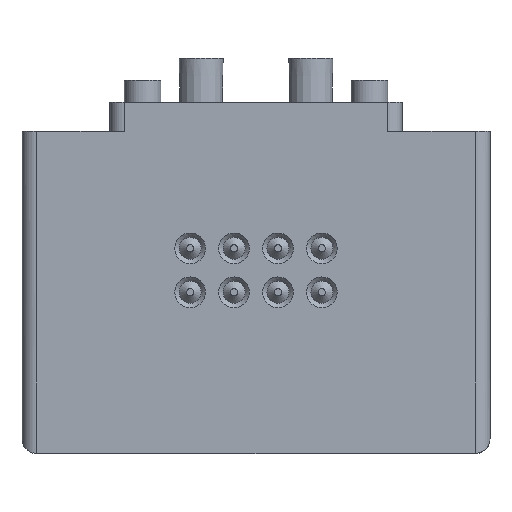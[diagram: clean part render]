
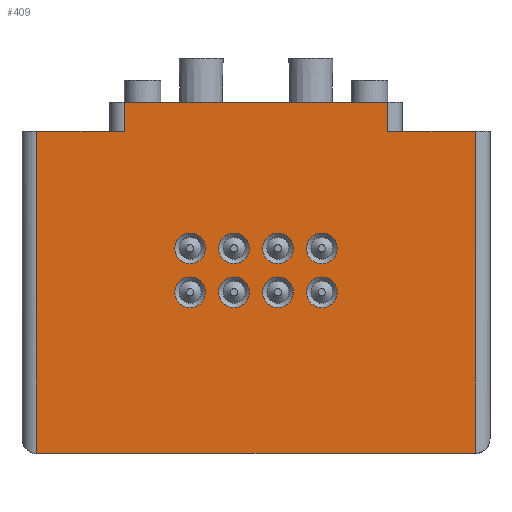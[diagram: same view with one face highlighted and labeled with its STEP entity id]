
A CAD part, top view. The second image highlights one B-rep face of the part: STEP entity #409.
In plain terms, the highlighted planar face has unit normal (0, 0, 1).
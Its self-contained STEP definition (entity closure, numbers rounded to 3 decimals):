
#409=ADVANCED_FACE('',(#1052,#1053,#1054,#1055,#1056,#1057,#1058,#1059,#1060),#1061,.T.);
#1052=FACE_BOUND('',#2017,.T.);
#1053=FACE_BOUND('',#2018,.T.);
#1054=FACE_BOUND('',#2019,.T.);
#1055=FACE_BOUND('',#2020,.T.);
#1056=FACE_BOUND('',#2021,.T.);
#1057=FACE_BOUND('',#2022,.T.);
#1058=FACE_BOUND('',#2023,.T.);
#1059=FACE_BOUND('',#2024,.T.);
#1060=FACE_OUTER_BOUND('',#2025,.T.);
#1061=PLANE('',#2026);
#2017=EDGE_LOOP('',(#3254));
#2018=EDGE_LOOP('',(#3255));
#2019=EDGE_LOOP('',(#3256));
#2020=EDGE_LOOP('',(#3257));
#2021=EDGE_LOOP('',(#3258));
#2022=EDGE_LOOP('',(#3259));
#2023=EDGE_LOOP('',(#3260));
#2024=EDGE_LOOP('',(#3261));
#2025=EDGE_LOOP('',(#3262,#3263,#3264,#3265,#3266,#3267,#3268,#3269));
#2026=AXIS2_PLACEMENT_3D('',#3270,#3271,#3272);
#3254=ORIENTED_EDGE('',*,*,#5368,.T.);
#3255=ORIENTED_EDGE('',*,*,#5369,.T.);
#3256=ORIENTED_EDGE('',*,*,#5370,.T.);
#3257=ORIENTED_EDGE('',*,*,#5371,.T.);
#3258=ORIENTED_EDGE('',*,*,#5372,.T.);
#3259=ORIENTED_EDGE('',*,*,#5373,.T.);
#3260=ORIENTED_EDGE('',*,*,#5374,.T.);
#3261=ORIENTED_EDGE('',*,*,#5375,.T.);
#3262=ORIENTED_EDGE('',*,*,#5343,.T.);
#3263=ORIENTED_EDGE('',*,*,#5219,.T.);
#3264=ORIENTED_EDGE('',*,*,#5376,.T.);
#3265=ORIENTED_EDGE('',*,*,#5377,.T.);
#3266=ORIENTED_EDGE('',*,*,#5378,.T.);
#3267=ORIENTED_EDGE('',*,*,#5379,.T.);
#3268=ORIENTED_EDGE('',*,*,#5380,.T.);
#3269=ORIENTED_EDGE('',*,*,#5268,.T.);
#3270=CARTESIAN_POINT('',(-16.0,-24.0,5.8));
#3271=DIRECTION('',(0.0,0.0,1.0));
#3272=DIRECTION('',(1.0,0.0,0.0));
#5219=EDGE_CURVE('',#6150,#6148,#6151,.T.);
#5268=EDGE_CURVE('',#6229,#6230,#6231,.T.);
#5343=EDGE_CURVE('',#6230,#6150,#6346,.T.);
#5368=EDGE_CURVE('',#6380,#6380,#6381,.T.);
#5369=EDGE_CURVE('',#6382,#6382,#6383,.T.);
#5370=EDGE_CURVE('',#6384,#6384,#6385,.T.);
#5371=EDGE_CURVE('',#6386,#6386,#6387,.T.);
#5372=EDGE_CURVE('',#6388,#6388,#6389,.T.);
#5373=EDGE_CURVE('',#6390,#6390,#6391,.T.);
#5374=EDGE_CURVE('',#6392,#6392,#6393,.T.);
#5375=EDGE_CURVE('',#6394,#6394,#6395,.T.);
#5376=EDGE_CURVE('',#6148,#6396,#6397,.T.);
#5377=EDGE_CURVE('',#6396,#6398,#6399,.T.);
#5378=EDGE_CURVE('',#6398,#6400,#6401,.T.);
#5379=EDGE_CURVE('',#6400,#6402,#6403,.T.);
#5380=EDGE_CURVE('',#6402,#6229,#6404,.T.);
#6148=VERTEX_POINT('',#7493);
#6150=VERTEX_POINT('',#7495);
#6151=LINE('',#7496,#7497);
#6229=VERTEX_POINT('',#7607);
#6230=VERTEX_POINT('',#7608);
#6231=LINE('',#7609,#7610);
#6346=LINE('',#7769,#7770);
#6380=VERTEX_POINT('',#7812);
#6381=CIRCLE('',#7813,1.05);
#6382=VERTEX_POINT('',#7814);
#6383=CIRCLE('',#7815,1.05);
#6384=VERTEX_POINT('',#7816);
#6385=CIRCLE('',#7817,1.05);
#6386=VERTEX_POINT('',#7818);
#6387=CIRCLE('',#7819,1.05);
#6388=VERTEX_POINT('',#7820);
#6389=CIRCLE('',#7821,1.05);
#6390=VERTEX_POINT('',#7822);
#6391=CIRCLE('',#7823,1.05);
#6392=VERTEX_POINT('',#7824);
#6393=CIRCLE('',#7825,1.05);
#6394=VERTEX_POINT('',#7826);
#6395=CIRCLE('',#7827,1.05);
#6396=VERTEX_POINT('',#7828);
#6397=LINE('',#7829,#7830);
#6398=VERTEX_POINT('',#7831);
#6399=LINE('',#7832,#7833);
#6400=VERTEX_POINT('',#7834);
#6401=LINE('',#7835,#7836);
#6402=VERTEX_POINT('',#7837);
#6403=LINE('',#7838,#7839);
#6404=LINE('',#7840,#7841);
#7493=CARTESIAN_POINT('',(15.0,-2.,5.8));
#7495=CARTESIAN_POINT('',(15.0,-24.0,5.8));
#7496=CARTESIAN_POINT('',(15.0,-7.0,5.8));
#7497=VECTOR('',#9167,1.0);
#7607=CARTESIAN_POINT('',(-15.0,-2.,5.8));
#7608=CARTESIAN_POINT('',(-15.0,-24.0,5.8));
#7609=CARTESIAN_POINT('',(-15.0,-24.0,5.8));
#7610=VECTOR('',#9215,1.0);
#7769=CARTESIAN_POINT('',(-16.0,-24.0,5.8));
#7770=VECTOR('',#9305,1.0);
#7812=CARTESIAN_POINT('',(5.55,-13.0,5.8));
#7813=AXIS2_PLACEMENT_3D('',#9338,#9339,#9340);
#7814=CARTESIAN_POINT('',(5.55,-10.0,5.8));
#7815=AXIS2_PLACEMENT_3D('',#9341,#9342,#9343);
#7816=CARTESIAN_POINT('',(2.55,-13.0,5.8));
#7817=AXIS2_PLACEMENT_3D('',#9344,#9345,#9346);
#7818=CARTESIAN_POINT('',(2.55,-10.0,5.8));
#7819=AXIS2_PLACEMENT_3D('',#9347,#9348,#9349);
#7820=CARTESIAN_POINT('',(-0.45,-13.0,5.8));
#7821=AXIS2_PLACEMENT_3D('',#9350,#9351,#9352);
#7822=CARTESIAN_POINT('',(-0.45,-10.0,5.8));
#7823=AXIS2_PLACEMENT_3D('',#9353,#9354,#9355);
#7824=CARTESIAN_POINT('',(-3.45,-13.0,5.8));
#7825=AXIS2_PLACEMENT_3D('',#9356,#9357,#9358);
#7826=CARTESIAN_POINT('',(-3.45,-10.0,5.8));
#7827=AXIS2_PLACEMENT_3D('',#9359,#9360,#9361);
#7828=CARTESIAN_POINT('',(9.0,-2.0,5.8));
#7829=CARTESIAN_POINT('',(16.0,-2.,5.8));
#7830=VECTOR('',#9362,1.0);
#7831=CARTESIAN_POINT('',(9.0,0.,5.8));
#7832=CARTESIAN_POINT('',(9.0,0.,5.8));
#7833=VECTOR('',#9363,1.0);
#7834=CARTESIAN_POINT('',(-9.0,0.,5.8));
#7835=CARTESIAN_POINT('',(10.0,0.,5.8));
#7836=VECTOR('',#9364,1.0);
#7837=CARTESIAN_POINT('',(-9.0,-2.0,5.8));
#7838=CARTESIAN_POINT('',(-9.0,-2.0,5.8));
#7839=VECTOR('',#9365,1.0);
#7840=CARTESIAN_POINT('',(16.0,-2.,5.8));
#7841=VECTOR('',#9366,1.0);
#9167=DIRECTION('',(0.0,1.0,0.0));
#9215=DIRECTION('',(0.0,-1.0,0.0));
#9305=DIRECTION('',(1.0,0.0,0.0));
#9338=CARTESIAN_POINT('',(4.5,-13.0,5.8));
#9339=DIRECTION('',(0.0,0.0,-1.0));
#9340=DIRECTION('',(1.0,0.0,0.0));
#9341=CARTESIAN_POINT('',(4.5,-10.0,5.8));
#9342=DIRECTION('',(0.0,0.0,-1.0));
#9343=DIRECTION('',(1.0,0.0,0.0));
#9344=CARTESIAN_POINT('',(1.5,-13.0,5.8));
#9345=DIRECTION('',(0.0,0.0,-1.0));
#9346=DIRECTION('',(1.0,0.0,0.0));
#9347=CARTESIAN_POINT('',(1.5,-10.0,5.8));
#9348=DIRECTION('',(0.0,0.0,-1.0));
#9349=DIRECTION('',(1.0,0.0,0.0));
#9350=CARTESIAN_POINT('',(-1.5,-13.0,5.8));
#9351=DIRECTION('',(0.0,0.0,-1.0));
#9352=DIRECTION('',(1.0,0.0,0.0));
#9353=CARTESIAN_POINT('',(-1.5,-10.0,5.8));
#9354=DIRECTION('',(0.0,0.0,-1.0));
#9355=DIRECTION('',(1.0,0.0,0.0));
#9356=CARTESIAN_POINT('',(-4.5,-13.0,5.8));
#9357=DIRECTION('',(0.0,0.0,-1.0));
#9358=DIRECTION('',(1.0,0.0,0.0));
#9359=CARTESIAN_POINT('',(-4.5,-10.0,5.8));
#9360=DIRECTION('',(0.0,0.0,-1.0));
#9361=DIRECTION('',(1.0,0.0,0.0));
#9362=DIRECTION('',(-1.0,0.0,0.0));
#9363=DIRECTION('',(0.0,1.0,0.0));
#9364=DIRECTION('',(-1.0,0.0,0.0));
#9365=DIRECTION('',(0.0,-1.0,0.0));
#9366=DIRECTION('',(-1.0,0.0,0.0));
